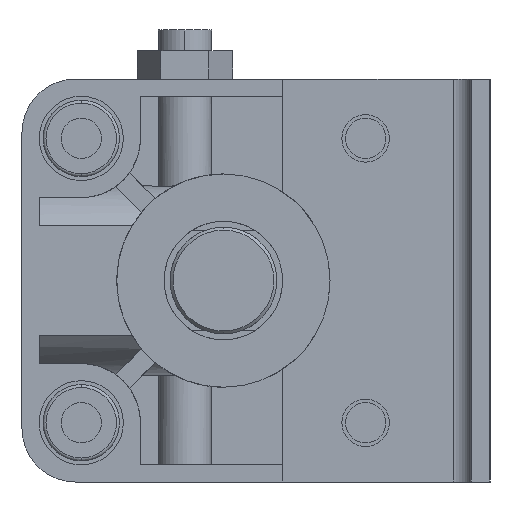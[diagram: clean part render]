
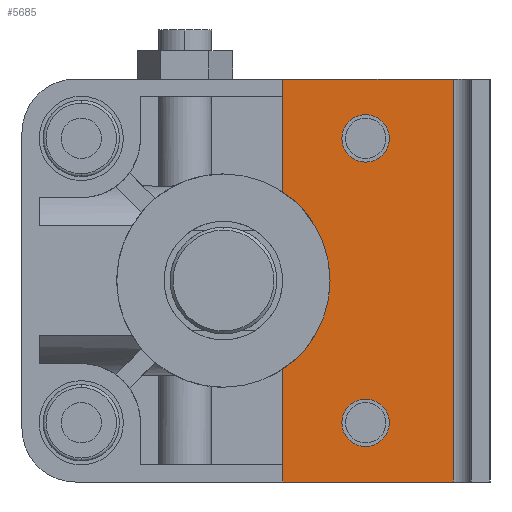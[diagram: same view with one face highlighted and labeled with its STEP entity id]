
A CAD part, left-side view. The second image highlights one B-rep face of the part: STEP entity #5685.
In plain terms, the highlighted planar face has unit normal (-1, 0, 0) as drawn and (0, 0, 1) by its records, which use the part's own axes.
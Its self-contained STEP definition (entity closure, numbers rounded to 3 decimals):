
#44 = CARTESIAN_POINT ( 'NONE',  ( -20., -24., 0. ) ) ;
#74 = ORIENTED_EDGE ( 'NONE', *, *, #1959, .F. ) ;
#124 = DIRECTION ( 'NONE',  ( 0., 0., -1. ) ) ;
#278 = DIRECTION ( 'NONE',  ( 1., 0., 0. ) ) ;
#454 = CARTESIAN_POINT ( 'NONE',  ( 0., -38.8, 0. ) ) ;
#820 = CARTESIAN_POINT ( 'NONE',  ( 34., -10., 0. ) ) ;
#909 = VERTEX_POINT ( 'NONE', #3243 ) ;
#941 = EDGE_CURVE ( 'NONE', #6116, #6470, #9214, .T. ) ;
#992 = DIRECTION ( 'NONE',  ( 0., 0., -1. ) ) ;
#1051 = ORIENTED_EDGE ( 'NONE', *, *, #4229, .T. ) ;
#1137 = CARTESIAN_POINT ( 'NONE',  ( 24., -24., 0. ) ) ;
#1153 = CIRCLE ( 'NONE', #5540, 4. ) ;
#1238 = ORIENTED_EDGE ( 'NONE', *, *, #9599, .T. ) ;
#1253 = CARTESIAN_POINT ( 'NONE',  ( 34., -27.5, 0. ) ) ;
#1712 = DIRECTION ( 'NONE',  ( 1., 0., 0. ) ) ;
#1743 = AXIS2_PLACEMENT_3D ( 'NONE', #5443, #992, #278 ) ;
#1826 = FACE_OUTER_BOUND ( 'NONE', #4987, .T. ) ;
#1959 = EDGE_CURVE ( 'NONE', #6470, #909, #7728, .T. ) ;
#1975 = AXIS2_PLACEMENT_3D ( 'NONE', #10099, #124, #1712 ) ;
#2255 = EDGE_LOOP ( 'NONE', ( #5076, #4037 ) ) ;
#2327 = LINE ( 'NONE', #5412, #4807 ) ;
#2352 = ORIENTED_EDGE ( 'NONE', *, *, #4808, .T. ) ;
#2400 = CARTESIAN_POINT ( 'NONE',  ( -34., -27.5, 0. ) ) ;
#2585 = CARTESIAN_POINT ( 'NONE',  ( -14.967, -10., 0. ) ) ;
#2635 = CARTESIAN_POINT ( 'NONE',  ( 0., 0., 0. ) ) ;
#2680 = CIRCLE ( 'NONE', #7604, 4. ) ;
#3040 = LINE ( 'NONE', #4409, #8609 ) ;
#3141 = VERTEX_POINT ( 'NONE', #4609 ) ;
#3203 = CARTESIAN_POINT ( 'NONE',  ( 20., -24., 0. ) ) ;
#3243 = CARTESIAN_POINT ( 'NONE',  ( -34., -10., 0. ) ) ;
#3511 = DIRECTION ( 'NONE',  ( 0., 0., -1. ) ) ;
#3559 = DIRECTION ( 'NONE',  ( 0., 0., 1. ) ) ;
#4037 = ORIENTED_EDGE ( 'NONE', *, *, #9062, .T. ) ;
#4229 = EDGE_CURVE ( 'NONE', #7500, #5008, #6527, .T. ) ;
#4383 = ORIENTED_EDGE ( 'NONE', *, *, #10647, .T. ) ;
#4409 = CARTESIAN_POINT ( 'NONE',  ( 0., -10., 0. ) ) ;
#4552 = PLANE ( 'NONE',  #6513 ) ;
#4609 = CARTESIAN_POINT ( 'NONE',  ( 14.967, -10., 0. ) ) ;
#4642 = ORIENTED_EDGE ( 'NONE', *, *, #5109, .T. ) ;
#4643 = VECTOR ( 'NONE', #4684, 1000. ) ;
#4684 = DIRECTION ( 'NONE',  ( 0., -1., 0. ) ) ;
#4742 = DIRECTION ( 'NONE',  ( 1., 0., 0. ) ) ;
#4807 = VECTOR ( 'NONE', #8325, 1000. ) ;
#4808 = EDGE_CURVE ( 'NONE', #3141, #6829, #6374, .T. ) ;
#4987 = EDGE_LOOP ( 'NONE', ( #2352, #4383, #74, #5411, #7249, #4642 ) ) ;
#5008 = VERTEX_POINT ( 'NONE', #44 ) ;
#5076 = ORIENTED_EDGE ( 'NONE', *, *, #10155, .T. ) ;
#5109 = EDGE_CURVE ( 'NONE', #9514, #3141, #2327, .T. ) ;
#5403 = FACE_BOUND ( 'NONE', #7760, .T. ) ;
#5411 = ORIENTED_EDGE ( 'NONE', *, *, #941, .F. ) ;
#5412 = CARTESIAN_POINT ( 'NONE',  ( 0., -10., 0. ) ) ;
#5443 = CARTESIAN_POINT ( 'NONE',  ( 24., -24., 0. ) ) ;
#5540 = AXIS2_PLACEMENT_3D ( 'NONE', #9955, #10324, #8413 ) ;
#5685 = ADVANCED_FACE ( 'NONE', ( #5403, #6631, #1826 ), #4552, .T. ) ;
#5847 = DIRECTION ( 'NONE',  ( 0., 1., 0. ) ) ;
#5993 = VECTOR ( 'NONE', #10435, 1000. ) ;
#6116 = VERTEX_POINT ( 'NONE', #10536 ) ;
#6374 = CIRCLE ( 'NONE', #9382, 18. ) ;
#6470 = VERTEX_POINT ( 'NONE', #8373 ) ;
#6513 = AXIS2_PLACEMENT_3D ( 'NONE', #10579, #3559, #7327 ) ;
#6527 = CIRCLE ( 'NONE', #1975, 4. ) ;
#6554 = VERTEX_POINT ( 'NONE', #3203 ) ;
#6631 = FACE_BOUND ( 'NONE', #2255, .T. ) ;
#6647 = DIRECTION ( 'NONE',  ( 0., 0., -1. ) ) ;
#6733 = VERTEX_POINT ( 'NONE', #9135 ) ;
#6829 = VERTEX_POINT ( 'NONE', #2585 ) ;
#7249 = ORIENTED_EDGE ( 'NONE', *, *, #8557, .F. ) ;
#7327 = DIRECTION ( 'NONE',  ( 1., 0., 0. ) ) ;
#7352 = DIRECTION ( 'NONE',  ( -1., 0., 0. ) ) ;
#7471 = CIRCLE ( 'NONE', #1743, 4. ) ;
#7500 = VERTEX_POINT ( 'NONE', #8394 ) ;
#7604 = AXIS2_PLACEMENT_3D ( 'NONE', #1137, #6647, #4742 ) ;
#7728 = LINE ( 'NONE', #2400, #9877 ) ;
#7760 = EDGE_LOOP ( 'NONE', ( #1238, #1051 ) ) ;
#8325 = DIRECTION ( 'NONE',  ( -1., 0., 0. ) ) ;
#8373 = CARTESIAN_POINT ( 'NONE',  ( -34., -38.8, 0. ) ) ;
#8394 = CARTESIAN_POINT ( 'NONE',  ( -28., -24., 0. ) ) ;
#8413 = DIRECTION ( 'NONE',  ( 1., 0., 0. ) ) ;
#8557 = EDGE_CURVE ( 'NONE', #9514, #6116, #9301, .T. ) ;
#8609 = VECTOR ( 'NONE', #7352, 1000. ) ;
#9062 = EDGE_CURVE ( 'NONE', #6554, #6733, #2680, .T. ) ;
#9135 = CARTESIAN_POINT ( 'NONE',  ( 28., -24., 0. ) ) ;
#9214 = LINE ( 'NONE', #454, #5993 ) ;
#9301 = LINE ( 'NONE', #1253, #4643 ) ;
#9382 = AXIS2_PLACEMENT_3D ( 'NONE', #2635, #3511, #9461 ) ;
#9461 = DIRECTION ( 'NONE',  ( 1., 0., 0. ) ) ;
#9514 = VERTEX_POINT ( 'NONE', #820 ) ;
#9599 = EDGE_CURVE ( 'NONE', #5008, #7500, #1153, .T. ) ;
#9877 = VECTOR ( 'NONE', #5847, 1000. ) ;
#9955 = CARTESIAN_POINT ( 'NONE',  ( -24., -24., 0. ) ) ;
#10099 = CARTESIAN_POINT ( 'NONE',  ( -24., -24., 0. ) ) ;
#10155 = EDGE_CURVE ( 'NONE', #6733, #6554, #7471, .T. ) ;
#10324 = DIRECTION ( 'NONE',  ( 0., 0., -1. ) ) ;
#10435 = DIRECTION ( 'NONE',  ( -1., 0., 0. ) ) ;
#10536 = CARTESIAN_POINT ( 'NONE',  ( 34., -38.8, 0. ) ) ;
#10579 = CARTESIAN_POINT ( 'NONE',  ( -34., -38.8, 0. ) ) ;
#10647 = EDGE_CURVE ( 'NONE', #6829, #909, #3040, .T. ) ;
